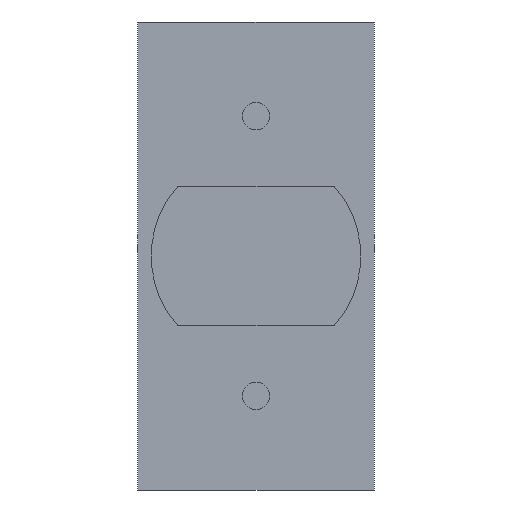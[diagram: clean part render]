
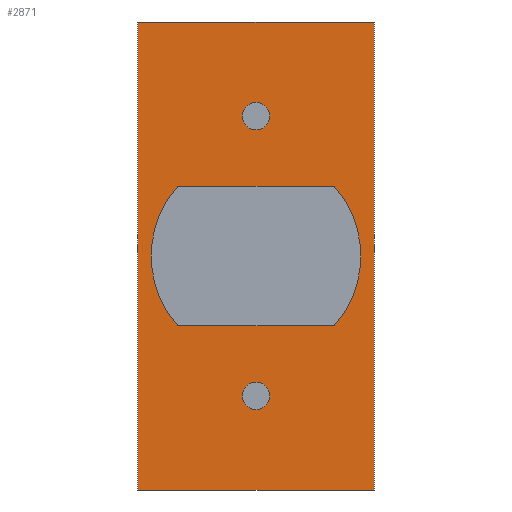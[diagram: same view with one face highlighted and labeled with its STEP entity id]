
A CAD part, front view. The second image highlights one B-rep face of the part: STEP entity #2871.
In plain terms, the highlighted planar face has unit normal (0, -1, 0).
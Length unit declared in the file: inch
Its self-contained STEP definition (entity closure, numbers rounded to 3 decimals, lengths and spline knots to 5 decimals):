
#15=CIRCLE('',#2963,0.00984);
#17=CIRCLE('',#2967,0.00984);
#18=CIRCLE('',#2970,0.075);
#20=CIRCLE('',#2974,0.075);
#38=FACE_BOUND('',#430,.T.);
#39=FACE_BOUND('',#431,.T.);
#40=FACE_BOUND('',#432,.T.);
#262=FACE_OUTER_BOUND('',#429,.T.);
#429=EDGE_LOOP('',(#2595,#2596,#2597,#2598));
#430=EDGE_LOOP('',(#2599));
#431=EDGE_LOOP('',(#2600));
#432=EDGE_LOOP('',(#2601,#2602,#2603,#2604));
#813=LINE('',#5311,#1081);
#817=LINE('',#5322,#1085);
#828=LINE('',#5345,#1096);
#831=LINE('',#5350,#1099);
#833=LINE('',#5355,#1101);
#834=LINE('',#5357,#1102);
#1081=VECTOR('',#3398,0.3937);
#1085=VECTOR('',#3410,0.3937);
#1096=VECTOR('',#3433,0.3937);
#1099=VECTOR('',#3438,0.3937);
#1101=VECTOR('',#3444,0.3937);
#1102=VECTOR('',#3447,0.3937);
#1356=VERTEX_POINT('',#5289);
#1358=VERTEX_POINT('',#5296);
#1359=VERTEX_POINT('',#5301);
#1360=VERTEX_POINT('',#5302);
#1363=VERTEX_POINT('',#5310);
#1365=VERTEX_POINT('',#5316);
#1371=VERTEX_POINT('',#5342);
#1372=VERTEX_POINT('',#5344);
#1373=VERTEX_POINT('',#5348);
#1374=VERTEX_POINT('',#5353);
#1753=EDGE_CURVE('',#1356,#1356,#15,.T.);
#1756=EDGE_CURVE('',#1358,#1358,#17,.T.);
#1757=EDGE_CURVE('',#1359,#1360,#18,.T.);
#1761=EDGE_CURVE('',#1360,#1363,#813,.T.);
#1764=EDGE_CURVE('',#1363,#1365,#20,.T.);
#1767=EDGE_CURVE('',#1365,#1359,#817,.T.);
#1778=EDGE_CURVE('',#1371,#1372,#828,.T.);
#1781=EDGE_CURVE('',#1373,#1371,#831,.T.);
#1783=EDGE_CURVE('',#1374,#1373,#833,.T.);
#1784=EDGE_CURVE('',#1372,#1374,#834,.T.);
#2595=ORIENTED_EDGE('',*,*,#1778,.F.);
#2596=ORIENTED_EDGE('',*,*,#1781,.F.);
#2597=ORIENTED_EDGE('',*,*,#1783,.F.);
#2598=ORIENTED_EDGE('',*,*,#1784,.F.);
#2599=ORIENTED_EDGE('',*,*,#1753,.T.);
#2600=ORIENTED_EDGE('',*,*,#1756,.T.);
#2601=ORIENTED_EDGE('',*,*,#1757,.T.);
#2602=ORIENTED_EDGE('',*,*,#1761,.T.);
#2603=ORIENTED_EDGE('',*,*,#1764,.T.);
#2604=ORIENTED_EDGE('',*,*,#1767,.T.);
#2688=PLANE('',#2987);
#2871=ADVANCED_FACE('',(#262,#38,#39,#40),#2688,.F.);
#2963=AXIS2_PLACEMENT_3D('',#5291,#3375,#3376);
#2967=AXIS2_PLACEMENT_3D('',#5298,#3384,#3385);
#2970=AXIS2_PLACEMENT_3D('',#5303,#3390,#3391);
#2974=AXIS2_PLACEMENT_3D('',#5317,#3403,#3404);
#2987=AXIS2_PLACEMENT_3D('',#5358,#3448,#3449);
#3375=DIRECTION('center_axis',(0.,1.,0.));
#3376=DIRECTION('ref_axis',(-1.,0.,0.));
#3384=DIRECTION('center_axis',(0.,1.,0.));
#3385=DIRECTION('ref_axis',(-1.,0.,0.));
#3390=DIRECTION('center_axis',(0.,1.,0.));
#3391=DIRECTION('ref_axis',(0.745,0.,-0.667));
#3398=DIRECTION('',(-1.,0.,0.));
#3403=DIRECTION('center_axis',(0.,1.,0.));
#3404=DIRECTION('ref_axis',(-0.745,0.,0.667));
#3410=DIRECTION('',(1.,0.,0.));
#3433=DIRECTION('',(1.,0.,0.));
#3438=DIRECTION('',(0.,0.,1.));
#3444=DIRECTION('',(-1.,0.,0.));
#3447=DIRECTION('',(0.,0.,-1.));
#3448=DIRECTION('center_axis',(0.,1.,0.));
#3449=DIRECTION('ref_axis',(0.,0.,1.));
#5289=CARTESIAN_POINT('',(0.00984,0.,-0.1));
#5291=CARTESIAN_POINT('Origin',(0.,0.,-0.1));
#5296=CARTESIAN_POINT('',(0.00984,0.,0.1));
#5298=CARTESIAN_POINT('Origin',(0.,0.,0.1));
#5301=CARTESIAN_POINT('',(0.0559,0.,0.05));
#5302=CARTESIAN_POINT('',(0.0559,0.,-0.05));
#5303=CARTESIAN_POINT('Origin',(0.,0.,0.));
#5310=CARTESIAN_POINT('',(-0.0559,0.,-0.05));
#5311=CARTESIAN_POINT('',(-0.02795,0.,-0.05));
#5316=CARTESIAN_POINT('',(-0.0559,0.,0.05));
#5317=CARTESIAN_POINT('Origin',(0.,0.,0.));
#5322=CARTESIAN_POINT('',(0.02795,0.,0.05));
#5342=CARTESIAN_POINT('',(-0.08465,0.,0.16732));
#5344=CARTESIAN_POINT('',(0.08465,0.,0.16732));
#5345=CARTESIAN_POINT('',(-0.08465,0.,0.16732));
#5348=CARTESIAN_POINT('',(-0.08465,0.,-0.16732));
#5350=CARTESIAN_POINT('',(-0.08465,0.,-0.16732));
#5353=CARTESIAN_POINT('',(0.08465,0.,-0.16732));
#5355=CARTESIAN_POINT('',(0.08465,0.,-0.16732));
#5357=CARTESIAN_POINT('',(0.08465,0.,0.16732));
#5358=CARTESIAN_POINT('Origin',(0.,0.,0.));
